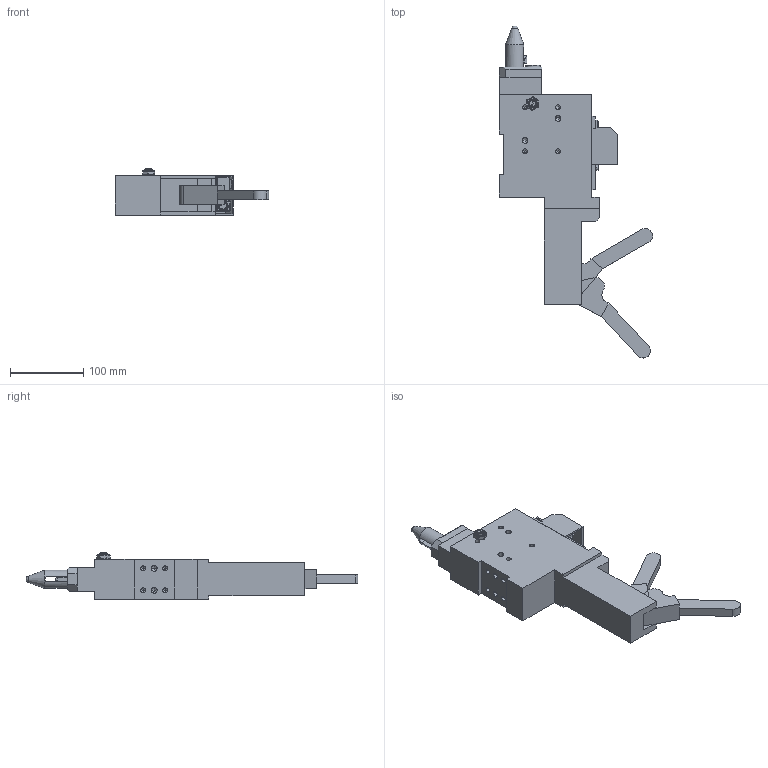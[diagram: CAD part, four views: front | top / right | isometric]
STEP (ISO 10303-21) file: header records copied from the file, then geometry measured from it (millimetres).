
FILE_DESCRIPTION((''),'2;1');
FILE_NAME('S:\Tom\INVENTOR FILES\AUTOMOTIVE\UNDERBODY CLAMPS\XLPV 16\XLPV 16 HAND APPLIED\XLPV25 HO\DERIVED PARTS FOR SAT FILES\SATS\XLPV 25-1-HO-ES1-P-250-30.stp','2015-01-14T09:56:30',('carl'),(''),'Autodesk Inventor 2013','Autodesk Inventor 2013','');
FILE_SCHEMA(('AUTOMOTIVE_DESIGN { 1 0 10303 214 1 1 1 1 }'));
Length unit declared in the file: millimetre
Products named in the file (3): Assembly3; Part6; Part8
Assembly tree (2 placements, depth 2):
  Assembly3
    Part6
    Part8
Bounding box: 208.95 x 452.47 x 63.5 mm (x, y, z)
Volume: 1546694.2 mm3; surface area: 163405.7 mm2
Topology: 3 solids, 3 shells, 666 faces, 1728 edges, 1000 vertices
Faces by surface type: cylinder 325, plane 206, cone 82, sphere 33, bspline 20
Full cylindrical faces by diameter (mm): 2.75 x1, 20 x1
Entity records: 19912 total; most frequent: CARTESIAN_POINT 3835, DIRECTION 3572, ORIENTED_EDGE 3234, EDGE_CURVE 1617, AXIS2_PLACEMENT_3D 1346, VERTEX_POINT 997, VECTOR 880, LINE 880
